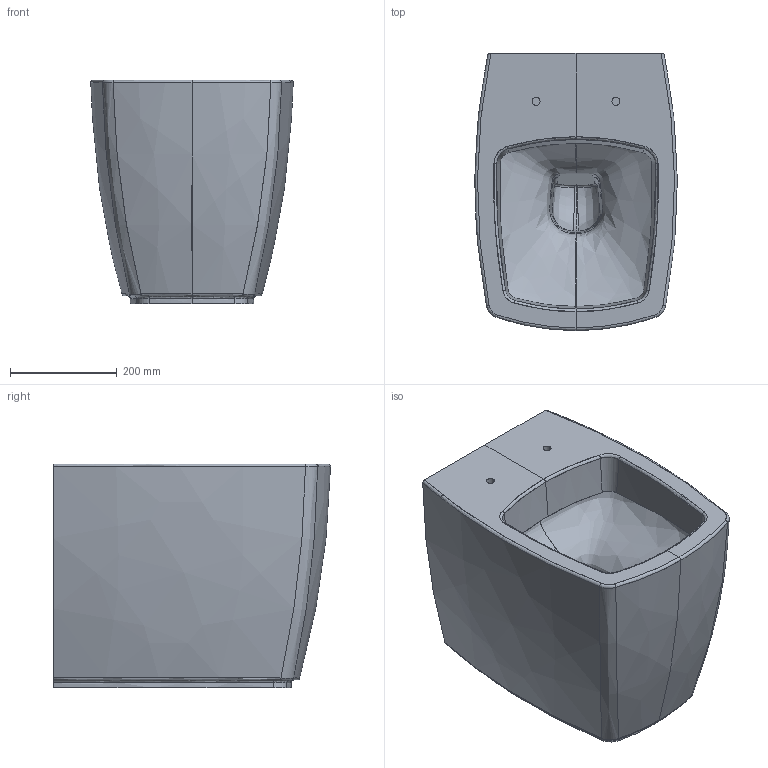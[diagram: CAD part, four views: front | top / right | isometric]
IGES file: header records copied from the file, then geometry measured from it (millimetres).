
Start section: START RECORD GO HERE.
Global section: file name: 8961_3D.igs; native system: DASSAULT SYSTEMES CATIA V5 R19 - www.3ds.com; preprocessor: CATIA Version 5 Release 19 SP 5 ; author: Luca; organization: DESKTOP-V7SON24; date: 20201127.092046; units: millimetre
Bounding box: 379.73 x 519.89 x 420 mm (x, y, z)
Surface area: 1087123.4 mm2 (no closed solid volume)
Topology: 0 solids, 0 shells, 105 faces, 510 edges, 508 vertices
Faces by surface type: bspline 68, revolution 18, plane 15, extrusion 4
